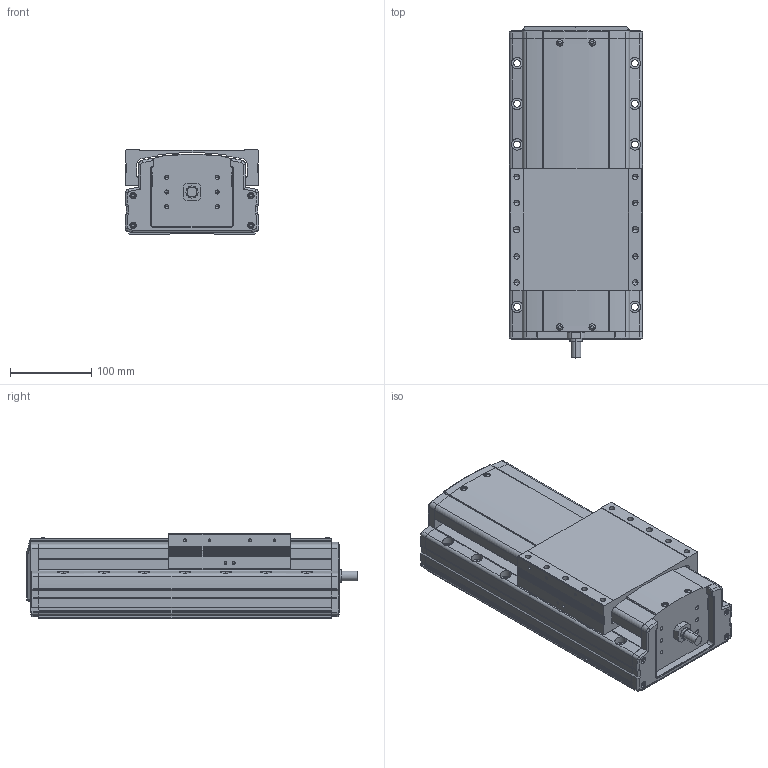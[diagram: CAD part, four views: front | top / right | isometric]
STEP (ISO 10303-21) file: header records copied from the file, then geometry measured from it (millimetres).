
FILE_DESCRIPTION(('STEP AP214'),'1');
FILE_NAME('Z:/Web/3D/PSA165/STP/PSA165-100 (3D)/PSA165ㅁㅁ-100.stp','2014-06-23T06:13:56',(' '),(' '),'Spatial InterOp 3D',' ',' ');
FILE_SCHEMA(('automotive_design'));
Length unit declared in the file: millimetre
Products named in the file (18): 스크루 : Round - M4.0 x 12.0; RRCV-PA160; BASE; 스크루 : Round - M4.0 x 10.0; RN15; Screw 20; SLIDE; FRCV
Bounding box: 165 x 408.8 x 104 mm (x, y, z)
Volume: 5426798.4 mm3; surface area: 443197.1 mm2
Topology: 18 solids, 18 shells, 1799 faces, 4877 edges, 3123 vertices
Faces by surface type: plane 1024, cylinder 553, cone 149, sphere 32, bspline 25, torus 16
Entity records: 73764 total; most frequent: CARTESIAN_POINT 13431, ORIENTED_EDGE 9542, DIRECTION 9525, EDGE_CURVE 4771, LINE 3303, VECTOR 3303, VERTEX_POINT 3123, AXIS2_PLACEMENT_3D 3111
